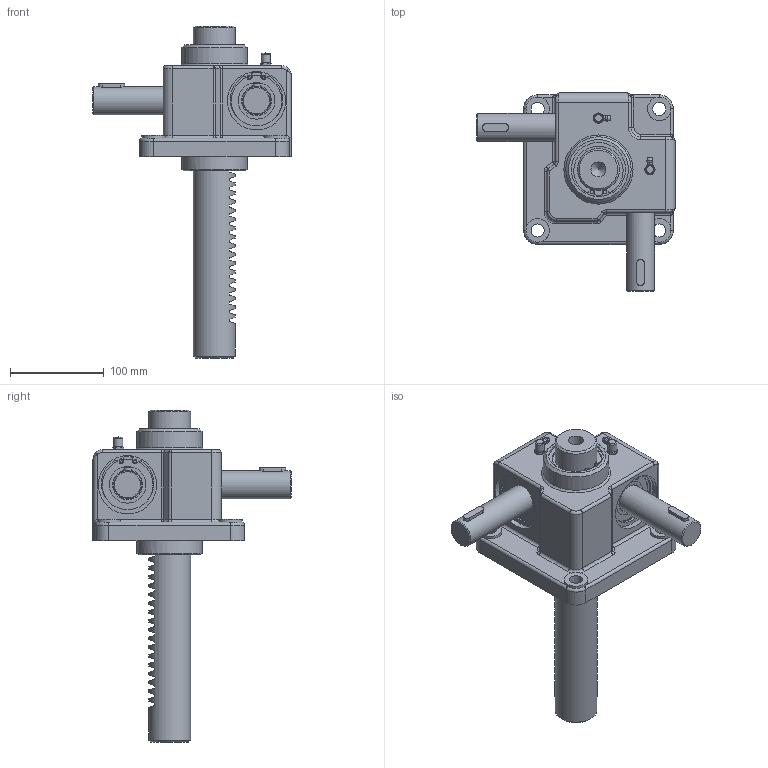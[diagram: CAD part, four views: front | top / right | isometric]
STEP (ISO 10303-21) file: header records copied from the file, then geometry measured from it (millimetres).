
FILE_DESCRIPTION(('STEP AP203'),'1');
FILE_NAME('SP1-5000-200ST.stp','2016-08-05T05:49:33',(' '),(' '),'Spatial InterOp 3D',' ',' ');
FILE_SCHEMA(('CONFIG_CONTROL_DESIGN'));
Length unit declared in the file: millimetre
Products named in the file (16): SP1-5000-200ST; Rack Gear(SP-5000); Body-Part; Gear Box(SP-5000); RJ05-4SCJ-610X600-100ST_CAP; LABEL-B.1; ___; 파트18; __
Assembly tree (22 placements, depth 6):
  SP1-5000-200ST
    Rack Gear(SP-5000)
    Body-Part
      (unnamed)  x2
      (unnamed)  x2
      (unnamed)  x2
      (unnamed)  x2
      (unnamed)  x2
      (unnamed)  x2
      (unnamed)  x2
      Gear Box(SP-5000)
      __
        ___
          RJ05-4SCJ-610X600-100ST_CAP
            LABEL-B.1
          파트18
Bounding box: 212 x 212.22 x 355 mm (x, y, z)
Volume: 1699984.7 mm3; surface area: 334921.8 mm2
Topology: 23 solids, 23 shells, 2325 faces, 6432 edges, 4152 vertices
Faces by surface type: plane 1897, cylinder 264, sphere 62, torus 50, cone 38, bspline 10, revolution 4
Full cylindrical faces by diameter (mm): 3.42 x4, 3.642 x4, 5.6 x2, 8 x2, 9.886 x2, 14 x4, 16 x1, 24 x2, 25 x4, 30 x4, 34 x2, 39.2 x4, 45 x3, 50 x1, 54.4 x4, 55 x4, 58 x2, 60 x2, 61 x2, 62 x4, 62.4 x2, 65 x2, 70 x2
Entity records: 71297 total; most frequent: CARTESIAN_POINT 14381, ORIENTED_EDGE 11898, DIRECTION 10977, EDGE_CURVE 5949, LINE 5179, VECTOR 5179, VERTEX_POINT 3918, AXIS2_PLACEMENT_3D 2898
